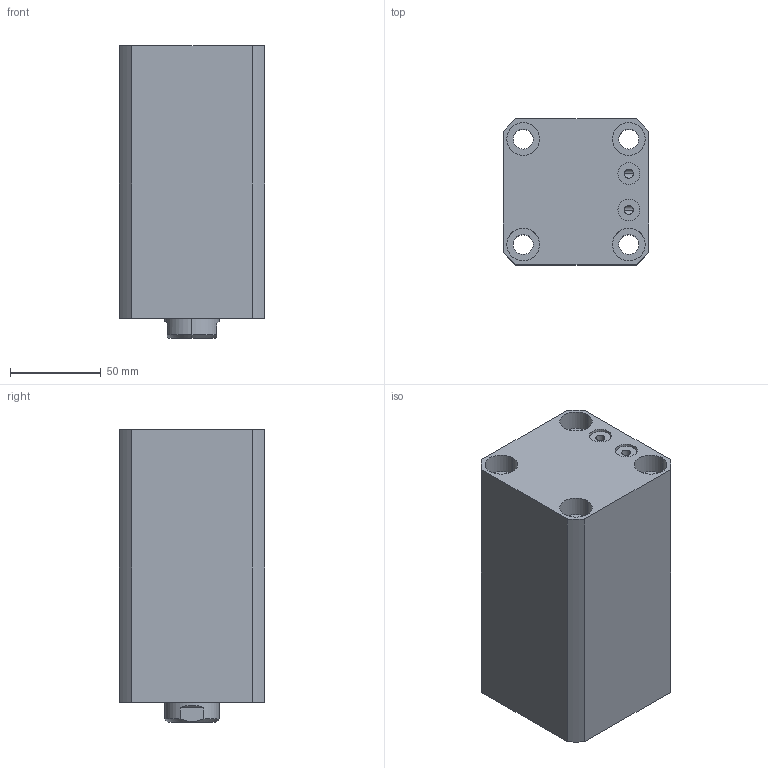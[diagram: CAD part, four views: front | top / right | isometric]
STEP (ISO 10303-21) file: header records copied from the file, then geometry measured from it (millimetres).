
FILE_DESCRIPTION (( 'STEP AP203' ), '1' );
FILE_NAME ('CHTB-SDMA50-90N.STEP', '2018-05-19T07:51:07', ( '' ), ( '' ), 'SwSTEP 2.0', 'SolidWorks 2015', '' );
FILE_SCHEMA (( 'CONFIG_CONTROL_DESIGN' ));
Length unit declared in the file: millimetre
Products named in the file (5): M6; 掛极SDMB50-90N; CHTM-SDMA50QG; CHTB-SDMA50-90N; 活塞杆SDMB50-90N
Assembly tree (5 placements, depth 2):
  CHTB-SDMA50-90N
    掛极SDMB50-90N
    活塞杆SDMB50-90N
    CHTM-SDMA50QG
    M6  x2
Bounding box: 80 x 80 x 161 mm (x, y, z)
Volume: 766543.5 mm3; surface area: 140819.6 mm2
Topology: 5 solids, 5 shells, 263 faces, 693 edges, 458 vertices
Faces by surface type: cylinder 135, plane 55, cone 31, bspline 26, torus 16
Entity records: 13963 total; most frequent: CARTESIAN_POINT 8102, ORIENTED_EDGE 1188, DIRECTION 1016, EDGE_CURVE 594, AXIS2_PLACEMENT_3D 416, VERTEX_POINT 397, EDGE_LOOP 269, ADVANCED_FACE 228
